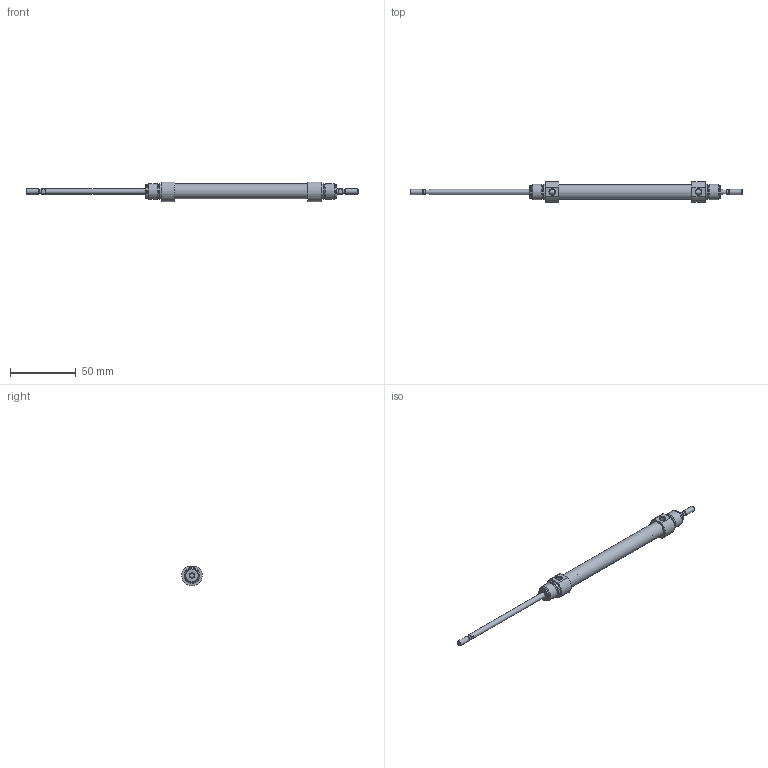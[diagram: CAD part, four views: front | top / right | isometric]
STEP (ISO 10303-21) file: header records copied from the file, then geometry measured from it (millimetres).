
FILE_DESCRIPTION( ( 'STEP AP203' ), '1' );
FILE_NAME( '//expscmdclustefs.cadenas.external/client_exchange/iodir/jobs/output/wkb68273119_no0/STEP/M101-010-0075--__0__2_03.stp', ' ', ( ' ' ), ( ' ' ), 'PSStep 15.0.47', 'PARTsolutions', ' ' );
FILE_SCHEMA( ( 'CONFIG_CONTROL_DESIGN' ) );
Length unit declared in the file: millimetre
Products named in the file (3): M101-010-0075-- [0]; HI_M101-010-0075---[0]-z; HI_M101-010-0075---[0]-k
Assembly tree (2 placements, depth 2):
  M101-010-0075-- [0]
    HI_M101-010-0075---[0]-z
    HI_M101-010-0075---[0]-k
Bounding box: 252 x 15.77 x 14.87 mm (x, y, z)
Volume: 12724.8 mm3; surface area: 12939.8 mm2
Topology: 2 solids, 2 shells, 71 faces, 145 edges, 88 vertices
Faces by surface type: plane 32, cylinder 23, cone 14, torus 2
Full cylindrical faces by diameter (mm): 3.141 x2, 4 x6, 4.134 x2, 10 x2, 10.466 x4, 11.3 x1, 12 x4
Entity records: 1838 total; most frequent: CARTESIAN_POINT 358, DIRECTION 312, ORIENTED_EDGE 212, AXIS2_PLACEMENT_3D 140, EDGE_LOOP 120, EDGE_CURVE 106, FACE_OUTER_BOUND 94, VERTEX_POINT 82
